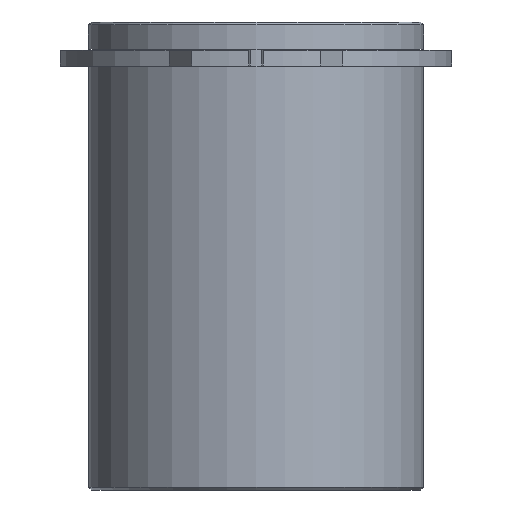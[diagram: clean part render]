
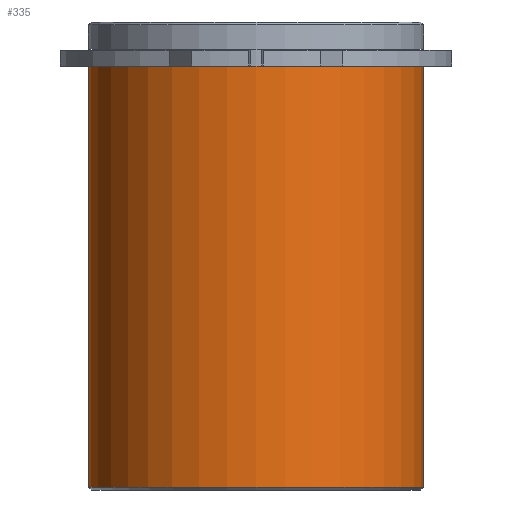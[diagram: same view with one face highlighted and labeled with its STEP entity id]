
A CAD part, front view. The second image highlights one B-rep face of the part: STEP entity #335.
In plain terms, the highlighted cylindrical face has radius 18.625 mm (diameter 37.25 mm), a partial arc.
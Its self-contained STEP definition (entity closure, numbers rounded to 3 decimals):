
#294=CARTESIAN_POINT('',(0.0,0.,-23.4));
#295=DIRECTION('',(0.0,0.,1.0));
#296=DIRECTION('',(1.0,0.0,0.0));
#297=AXIS2_PLACEMENT_3D('',#294,#295,#296);
#298=CYLINDRICAL_SURFACE('',#297,18.625);
#299=CARTESIAN_POINT('',(18.625,0.0,0.0));
#300=VERTEX_POINT('',#299);
#301=CARTESIAN_POINT('',(18.625,0.,-46.8));
#302=VERTEX_POINT('',#301);
#303=CARTESIAN_POINT('',(18.625,0.0,0.0));
#304=DIRECTION('',(0.0,0.0,-1.0));
#305=VECTOR('',#304,46.8);
#306=LINE('',#303,#305);
#307=EDGE_CURVE('',#300,#302,#306,.T.);
#308=ORIENTED_EDGE('',*,*,#307,.F.);
#309=CARTESIAN_POINT('',(-18.625,0.,0.0));
#310=VERTEX_POINT('',#309);
#311=CARTESIAN_POINT('',(0.0,0.0,0.0));
#312=DIRECTION('',(0.0,0.0,1.0));
#313=DIRECTION('',(1.0,0.0,0.0));
#314=AXIS2_PLACEMENT_3D('',#311,#312,#313);
#315=CIRCLE('',#314,18.625);
#316=EDGE_CURVE('',#310,#300,#315,.T.);
#317=ORIENTED_EDGE('',*,*,#316,.F.);
#318=CARTESIAN_POINT('',(-18.625,0.,-46.8));
#319=VERTEX_POINT('',#318);
#320=CARTESIAN_POINT('',(-18.625,0.,0.0));
#321=DIRECTION('',(0.0,0.0,-1.0));
#322=VECTOR('',#321,46.8);
#323=LINE('',#320,#322);
#324=EDGE_CURVE('',#310,#319,#323,.T.);
#325=ORIENTED_EDGE('',*,*,#324,.T.);
#326=CARTESIAN_POINT('',(0.0,0.,-46.8));
#327=DIRECTION('',(0.0,0.0,1.0));
#328=DIRECTION('',(1.0,0.0,0.0));
#329=AXIS2_PLACEMENT_3D('',#326,#327,#328);
#330=CIRCLE('',#329,18.625);
#331=EDGE_CURVE('',#319,#302,#330,.T.);
#332=ORIENTED_EDGE('',*,*,#331,.T.);
#333=EDGE_LOOP('',(#308,#317,#325,#332));
#334=FACE_OUTER_BOUND('',#333,.T.);
#335=ADVANCED_FACE('',(#334),#298,.T.);
